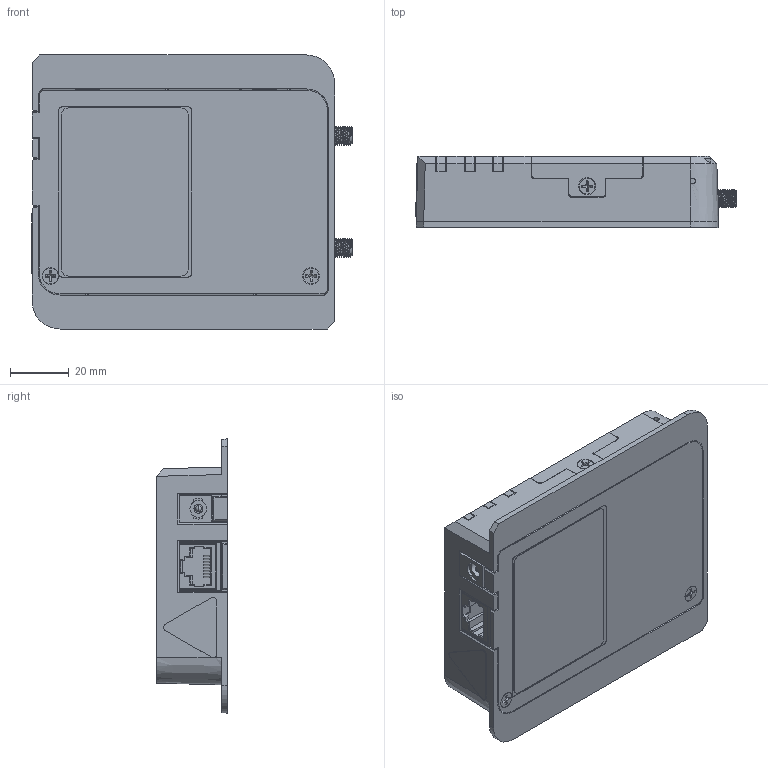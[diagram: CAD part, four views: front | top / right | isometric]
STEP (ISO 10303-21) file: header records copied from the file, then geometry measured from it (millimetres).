
FILE_DESCRIPTION((''),'2;1');
FILE_NAME('90001960_REV_A','2017-11-29T',('tmiller'),(''),'CREO PARAMETRIC BY PTC INC, 2016050','CREO PARAMETRIC BY PTC INC, 2016050','');
FILE_SCHEMA(('CONFIG_CONTROL_DESIGN'));
Products named in the file (1): 90001960_REV_A
Bounding box: 109.11 x 24.13 x 93.21 mm (x, y, z)
Volume: 161170.7 mm3; surface area: 72755.3 mm2
Topology: 1 solids, 5 shells, 1605 faces, 4657 edges, 2974 vertices
Faces by surface type: plane 873, cylinder 446, bspline 124, torus 81, cone 74, sphere 7
Entity records: 69596 total; most frequent: CARTESIAN_POINT 29082, ORIENTED_EDGE 9084, DIRECTION 7511, EDGE_CURVE 4546, VERTEX_POINT 2967, VECTOR 2885, LINE 2885, AXIS2_PLACEMENT_3D 2313
